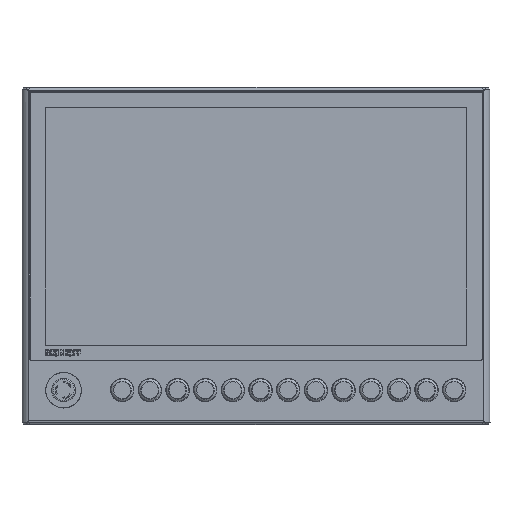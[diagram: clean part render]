
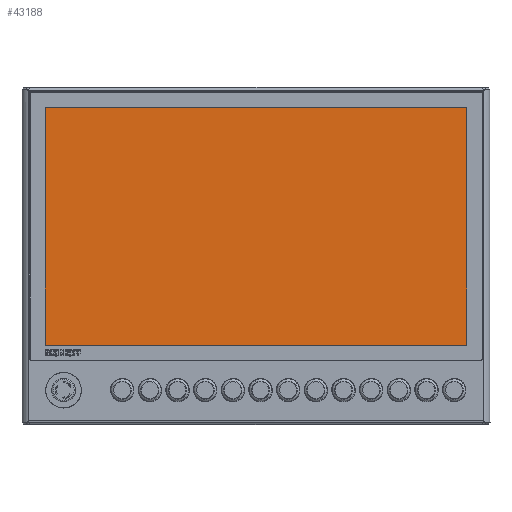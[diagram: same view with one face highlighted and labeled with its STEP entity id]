
A CAD part, top view. The second image highlights one B-rep face of the part: STEP entity #43188.
In plain terms, the highlighted planar face has unit normal (0, 0, 1).
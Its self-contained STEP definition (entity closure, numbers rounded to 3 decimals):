
#4150=FACE_OUTER_BOUND('',#6474,.T.);
#6474=EDGE_LOOP('',(#26656,#26657,#26658,#26659));
#8943=LINE('',#63298,#12426);
#8944=LINE('',#63300,#12427);
#8945=LINE('',#63302,#12428);
#8946=LINE('',#63303,#12429);
#12426=VECTOR('',#50337,10.);
#12427=VECTOR('',#50338,10.);
#12428=VECTOR('',#50339,10.);
#12429=VECTOR('',#50340,10.);
#15909=VERTEX_POINT('',#63296);
#15910=VERTEX_POINT('',#63297);
#15911=VERTEX_POINT('',#63299);
#15912=VERTEX_POINT('',#63301);
#20241=EDGE_CURVE('',#15909,#15910,#8943,.T.);
#20242=EDGE_CURVE('',#15911,#15909,#8944,.T.);
#20243=EDGE_CURVE('',#15912,#15911,#8945,.T.);
#20244=EDGE_CURVE('',#15910,#15912,#8946,.T.);
#26656=ORIENTED_EDGE('',*,*,#20241,.F.);
#26657=ORIENTED_EDGE('',*,*,#20242,.F.);
#26658=ORIENTED_EDGE('',*,*,#20243,.F.);
#26659=ORIENTED_EDGE('',*,*,#20244,.F.);
#39486=PLANE('',#45595);
#43188=ADVANCED_FACE('',(#4150),#39486,.T.);
#45595=AXIS2_PLACEMENT_3D('',#63295,#50335,#50336);
#50335=DIRECTION('center_axis',(0.,0.,
1.));
#50336=DIRECTION('ref_axis',(1.,0.,0.));
#50337=DIRECTION('',(0.,-1.,0.));
#50338=DIRECTION('',(1.,0.,0.));
#50339=DIRECTION('',(0.,1.,0.));
#50340=DIRECTION('',(-1.,0.,0.));
#63295=CARTESIAN_POINT('Origin',(0.1,0.1,12.3));
#63296=CARTESIAN_POINT('',(266.8,150.6,12.3));
#63297=CARTESIAN_POINT('',(266.8,-150.4,12.3));
#63298=CARTESIAN_POINT('',(266.8,-75.15,12.3));
#63299=CARTESIAN_POINT('',(-266.6,150.6,12.3));
#63300=CARTESIAN_POINT('',(133.45,150.6,12.3));
#63301=CARTESIAN_POINT('',(-266.6,-150.4,12.3));
#63302=CARTESIAN_POINT('',(-266.6,75.35,12.3));
#63303=CARTESIAN_POINT('',(-133.25,-150.4,12.3));
